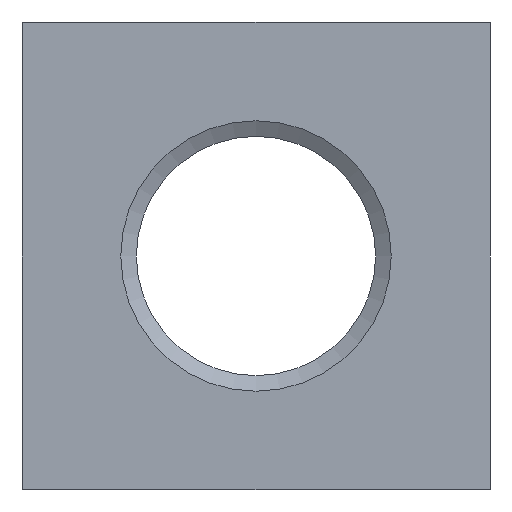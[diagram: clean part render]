
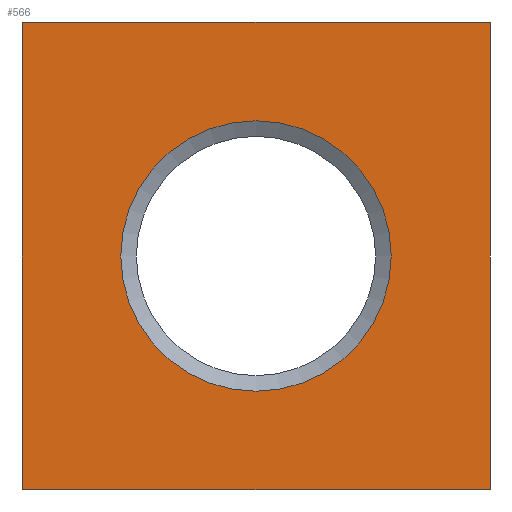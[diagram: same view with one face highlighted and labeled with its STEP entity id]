
A CAD part, front view. The second image highlights one B-rep face of the part: STEP entity #566.
In plain terms, the highlighted planar face has unit normal (0, -1, 0).
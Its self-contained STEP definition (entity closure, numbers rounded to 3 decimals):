
#161=CARTESIAN_POINT('',(-6.5,0.0,-6.486));
#162=VERTEX_POINT('',#161);
#169=CARTESIAN_POINT('',(-6.5,0.0,6.486));
#170=VERTEX_POINT('',#169);
#171=CARTESIAN_POINT('',(-6.5,0.0,-6.486));
#172=DIRECTION('',(0.0,0.0,1.0));
#173=VECTOR('',#172,12.972);
#174=LINE('',#171,#173);
#175=EDGE_CURVE('',#162,#170,#174,.T.);
#192=CARTESIAN_POINT('',(-6.486,0.0,-6.5));
#193=VERTEX_POINT('',#192);
#200=CARTESIAN_POINT('',(0.0,0.0,0.0));
#201=DIRECTION('',(0.0,1.0,0.0));
#202=DIRECTION('',(0.0,0.0,1.0));
#203=AXIS2_PLACEMENT_3D('',#200,#201,#202);
#204=CIRCLE('',#203,9.182);
#205=EDGE_CURVE('',#193,#162,#204,.T.);
#217=CARTESIAN_POINT('',(6.486,0.0,-6.5));
#218=VERTEX_POINT('',#217);
#225=CARTESIAN_POINT('',(6.486,0.0,-6.5));
#226=DIRECTION('',(-1.0,0.0,0.0));
#227=VECTOR('',#226,12.972);
#228=LINE('',#225,#227);
#229=EDGE_CURVE('',#218,#193,#228,.T.);
#241=CARTESIAN_POINT('',(6.5,0.0,-6.486));
#242=VERTEX_POINT('',#241);
#249=CARTESIAN_POINT('',(0.0,0.0,0.0));
#250=DIRECTION('',(0.0,1.0,0.0));
#251=DIRECTION('',(0.0,0.0,1.0));
#252=AXIS2_PLACEMENT_3D('',#249,#250,#251);
#253=CIRCLE('',#252,9.182);
#254=EDGE_CURVE('',#242,#218,#253,.T.);
#276=CARTESIAN_POINT('',(0.0,0.0,-3.756));
#277=VERTEX_POINT('',#276);
#278=CARTESIAN_POINT('',(0.0,0.0,0.0));
#279=DIRECTION('',(0.0,-1.0,0.0));
#280=DIRECTION('',(0.0,0.0,1.0));
#281=AXIS2_PLACEMENT_3D('',#278,#279,#280);
#282=CIRCLE('',#281,3.756);
#283=EDGE_CURVE('',#277,#277,#282,.T.);
#520=CARTESIAN_POINT('',(6.5,0.0,-6.5));
#521=DIRECTION('',(0.0,1.0,0.0));
#522=DIRECTION('',(0.0,0.0,1.0));
#523=AXIS2_PLACEMENT_3D('',#520,#521,#522);
#524=PLANE('',#523);
#525=CARTESIAN_POINT('',(6.486,0.0,6.5));
#526=VERTEX_POINT('',#525);
#527=CARTESIAN_POINT('',(6.5,0.0,6.486));
#528=VERTEX_POINT('',#527);
#529=CARTESIAN_POINT('',(0.0,0.0,0.0));
#530=DIRECTION('',(0.0,1.0,0.0));
#531=DIRECTION('',(0.0,0.0,1.0));
#532=AXIS2_PLACEMENT_3D('',#529,#530,#531);
#533=CIRCLE('',#532,9.182);
#534=EDGE_CURVE('',#526,#528,#533,.T.);
#535=ORIENTED_EDGE('',*,*,#534,.F.);
#536=CARTESIAN_POINT('',(-6.486,0.0,6.5));
#537=VERTEX_POINT('',#536);
#538=CARTESIAN_POINT('',(-6.486,0.0,6.5));
#539=DIRECTION('',(1.0,0.0,0.0));
#540=VECTOR('',#539,12.972);
#541=LINE('',#538,#540);
#542=EDGE_CURVE('',#537,#526,#541,.T.);
#543=ORIENTED_EDGE('',*,*,#542,.F.);
#544=CARTESIAN_POINT('',(0.0,0.0,0.0));
#545=DIRECTION('',(0.0,1.0,0.0));
#546=DIRECTION('',(0.0,0.0,1.0));
#547=AXIS2_PLACEMENT_3D('',#544,#545,#546);
#548=CIRCLE('',#547,9.182);
#549=EDGE_CURVE('',#170,#537,#548,.T.);
#550=ORIENTED_EDGE('',*,*,#549,.F.);
#551=ORIENTED_EDGE('',*,*,#175,.F.);
#552=ORIENTED_EDGE('',*,*,#205,.F.);
#553=ORIENTED_EDGE('',*,*,#229,.F.);
#554=ORIENTED_EDGE('',*,*,#254,.F.);
#555=CARTESIAN_POINT('',(6.5,0.0,6.486));
#556=DIRECTION('',(0.0,0.0,-1.0));
#557=VECTOR('',#556,12.972);
#558=LINE('',#555,#557);
#559=EDGE_CURVE('',#528,#242,#558,.T.);
#560=ORIENTED_EDGE('',*,*,#559,.F.);
#561=EDGE_LOOP('',(#535,#543,#550,#551,#552,#553,#554,#560));
#562=FACE_OUTER_BOUND('',#561,.T.);
#563=ORIENTED_EDGE('',*,*,#283,.F.);
#564=EDGE_LOOP('',(#563));
#565=FACE_BOUND('',#564,.T.);
#566=ADVANCED_FACE('',(#562,#565),#524,.F.);
